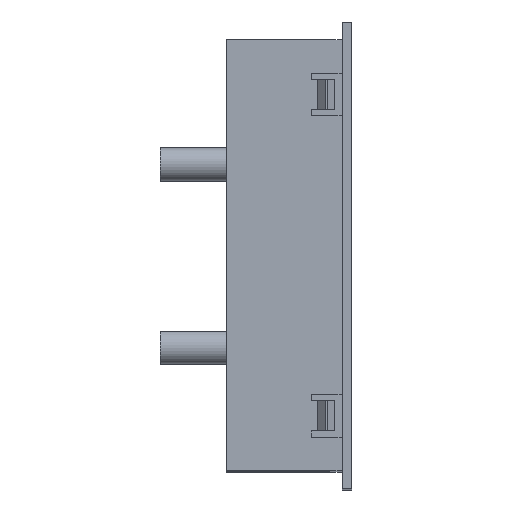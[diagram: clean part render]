
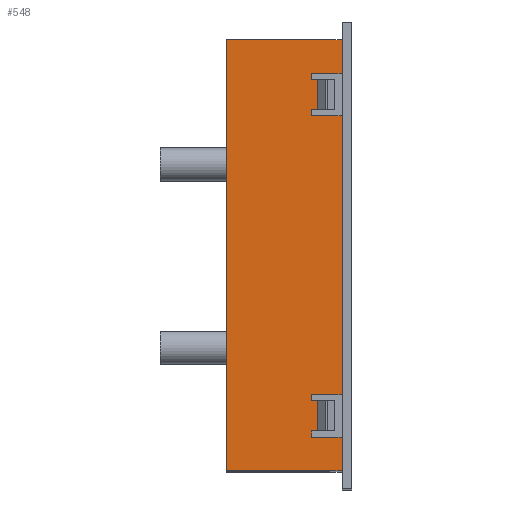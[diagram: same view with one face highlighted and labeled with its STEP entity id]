
A CAD part, top view. The second image highlights one B-rep face of the part: STEP entity #548.
In plain terms, the highlighted planar face has unit normal (0, 0, 1).
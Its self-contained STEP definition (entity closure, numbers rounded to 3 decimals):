
#548=ADVANCED_FACE('',(#1974),#1976,.T.);
#1974=FACE_BOUND('',#1975,.T.);
#1975=EDGE_LOOP('',(#3309,#3310,#3311,#3312,#3313,#3314,#3315,#3316,#3317,#3318,
#3319,#3320,#3321,#3322,#3323,#3324,#3325,#3326,#3327,#3328));
#1976=PLANE('',#1977);
#1977=AXIS2_PLACEMENT_3D('',#1978,#1979,#1980);
#1978=CARTESIAN_POINT('',(19.1,-35.6,67.35));
#1979=DIRECTION('',(0.,0.,1.));
#1980=DIRECTION('',(0.,1.,0.));
#3309=ORIENTED_EDGE('',*,*,#4173,.T.);
#3310=ORIENTED_EDGE('',*,*,#4009,.T.);
#3311=ORIENTED_EDGE('',*,*,#3990,.T.);
#3312=ORIENTED_EDGE('',*,*,#3943,.F.);
#3313=ORIENTED_EDGE('',*,*,#4033,.F.);
#3314=ORIENTED_EDGE('',*,*,#4003,.T.);
#3315=ORIENTED_EDGE('',*,*,#4174,.T.);
#3316=ORIENTED_EDGE('',*,*,#4175,.T.);
#3317=ORIENTED_EDGE('',*,*,#4176,.F.);
#3318=ORIENTED_EDGE('',*,*,#4177,.F.);
#3319=ORIENTED_EDGE('',*,*,#4178,.T.);
#3320=ORIENTED_EDGE('',*,*,#4179,.T.);
#3321=ORIENTED_EDGE('',*,*,#4180,.T.);
#3322=ORIENTED_EDGE('',*,*,#4015,.T.);
#3323=ORIENTED_EDGE('',*,*,#4181,.T.);
#3324=ORIENTED_EDGE('',*,*,#4182,.T.);
#3325=ORIENTED_EDGE('',*,*,#4183,.F.);
#3326=ORIENTED_EDGE('',*,*,#4184,.F.);
#3327=ORIENTED_EDGE('',*,*,#4185,.T.);
#3328=ORIENTED_EDGE('',*,*,#4186,.T.);
#3943=EDGE_CURVE('',#4549,#4551,#4552,.F.);
#3990=EDGE_CURVE('',#4643,#4551,#4644,.T.);
#4003=EDGE_CURVE('',#4668,#4666,#4669,.T.);
#4009=EDGE_CURVE('',#4675,#4643,#4676,.T.);
#4015=EDGE_CURVE('',#4687,#4685,#4688,.T.);
#4033=EDGE_CURVE('',#4668,#4549,#4714,.T.);
#4173=EDGE_CURVE('',#4949,#4675,#4950,.F.);
#4174=EDGE_CURVE('',#4666,#4951,#4952,.F.);
#4175=EDGE_CURVE('',#4951,#4953,#4954,.F.);
#4176=EDGE_CURVE('',#4955,#4953,#4956,.T.);
#4177=EDGE_CURVE('',#4957,#4955,#4958,.T.);
#4178=EDGE_CURVE('',#4957,#4959,#4960,.T.);
#4179=EDGE_CURVE('',#4959,#4961,#4962,.F.);
#4180=EDGE_CURVE('',#4961,#4687,#4963,.F.);
#4181=EDGE_CURVE('',#4685,#4964,#4965,.F.);
#4182=EDGE_CURVE('',#4964,#4966,#4967,.F.);
#4183=EDGE_CURVE('',#4968,#4966,#4969,.T.);
#4184=EDGE_CURVE('',#4970,#4968,#4971,.T.);
#4185=EDGE_CURVE('',#4970,#4972,#4973,.T.);
#4186=EDGE_CURVE('',#4972,#4949,#4974,.F.);
#4549=VERTEX_POINT('',#5621);
#4551=VERTEX_POINT('',#5625);
#4552=LINE('',#5626,#5627);
#4643=VERTEX_POINT('',#5815);
#4644=LINE('',#5816,#5817);
#4666=VERTEX_POINT('',#5863);
#4668=VERTEX_POINT('',#5867);
#4669=LINE('',#5868,#5869);
#4675=VERTEX_POINT('',#5886);
#4676=LINE('',#5887,#5888);
#4685=VERTEX_POINT('',#5906);
#4687=VERTEX_POINT('',#5910);
#4688=LINE('',#5911,#5912);
#4714=LINE('',#5977,#5978);
#4949=VERTEX_POINT('',#6493);
#4950=LINE('',#6494,#6495);
#4951=VERTEX_POINT('',#6497);
#4952=LINE('',#6498,#6499);
#4953=VERTEX_POINT('',#6501);
#4954=LINE('',#6502,#6503);
#4955=VERTEX_POINT('',#6505);
#4956=LINE('',#6506,#6507);
#4957=VERTEX_POINT('',#6509);
#4958=LINE('',#6510,#6511);
#4959=VERTEX_POINT('',#6513);
#4960=LINE('',#6514,#6515);
#4961=VERTEX_POINT('',#6517);
#4962=LINE('',#6518,#6519);
#4963=LINE('',#6521,#6522);
#4964=VERTEX_POINT('',#6524);
#4965=LINE('',#6525,#6526);
#4966=VERTEX_POINT('',#6528);
#4967=LINE('',#6529,#6530);
#4968=VERTEX_POINT('',#6532);
#4969=LINE('',#6533,#6534);
#4970=VERTEX_POINT('',#6536);
#4971=LINE('',#6537,#6538);
#4972=VERTEX_POINT('',#6540);
#4973=LINE('',#6541,#6542);
#4974=LINE('',#6544,#6545);
#5621=CARTESIAN_POINT('',(0.,-35.6,67.35));
#5625=CARTESIAN_POINT('',(0.,35.6,67.35));
#5626=CARTESIAN_POINT('',(0.,35.6,67.35));
#5627=VECTOR('',#5628,1.);
#5628=DIRECTION('',(0.,-1.,0.));
#5815=CARTESIAN_POINT('',(19.1,35.6,67.35));
#5816=CARTESIAN_POINT('',(19.1,35.6,67.35));
#5817=VECTOR('',#5818,1.);
#5818=DIRECTION('',(-1.,0.,0.));
#5863=CARTESIAN_POINT('',(19.1,-30.,67.35));
#5867=CARTESIAN_POINT('',(19.1,-35.6,67.35));
#5868=CARTESIAN_POINT('',(19.1,-35.6,67.35));
#5869=VECTOR('',#5870,1.);
#5870=DIRECTION('',(0.,1.,0.));
#5886=CARTESIAN_POINT('',(19.1,30.,67.35));
#5887=CARTESIAN_POINT('',(19.1,30.,67.35));
#5888=VECTOR('',#5889,1.);
#5889=DIRECTION('',(0.,1.,0.));
#5906=CARTESIAN_POINT('',(19.1,23.,67.35));
#5910=CARTESIAN_POINT('',(19.1,-23.,67.35));
#5911=CARTESIAN_POINT('',(19.1,-23.,67.35));
#5912=VECTOR('',#5913,1.);
#5913=DIRECTION('',(0.,1.,0.));
#5977=CARTESIAN_POINT('',(19.1,-35.6,67.35));
#5978=VECTOR('',#5979,1.);
#5979=DIRECTION('',(-1.,0.,0.));
#6493=CARTESIAN_POINT('',(14.1,30.,67.35));
#6494=CARTESIAN_POINT('',(19.1,30.,67.35));
#6495=VECTOR('',#6496,1.);
#6496=DIRECTION('',(-1.,0.,0.));
#6497=CARTESIAN_POINT('',(14.1,-30.,67.35));
#6498=CARTESIAN_POINT('',(14.1,-30.,67.35));
#6499=VECTOR('',#6500,1.);
#6500=DIRECTION('',(1.,0.,0.));
#6501=CARTESIAN_POINT('',(14.1,-29.,67.35));
#6502=CARTESIAN_POINT('',(14.1,-29.,67.35));
#6503=VECTOR('',#6504,1.);
#6504=DIRECTION('',(0.,-1.,0.));
#6505=CARTESIAN_POINT('',(15.1,-29.,67.35));
#6506=CARTESIAN_POINT('',(15.1,-29.,67.35));
#6507=VECTOR('',#6508,1.);
#6508=DIRECTION('',(-1.,0.,0.));
#6509=CARTESIAN_POINT('',(15.1,-24.,67.35));
#6510=CARTESIAN_POINT('',(15.1,-24.,67.35));
#6511=VECTOR('',#6512,1.);
#6512=DIRECTION('',(0.,-1.,0.));
#6513=CARTESIAN_POINT('',(14.1,-24.,67.35));
#6514=CARTESIAN_POINT('',(15.1,-24.,67.35));
#6515=VECTOR('',#6516,1.);
#6516=DIRECTION('',(-1.,0.,0.));
#6517=CARTESIAN_POINT('',(14.1,-23.,67.35));
#6518=CARTESIAN_POINT('',(14.1,-23.,67.35));
#6519=VECTOR('',#6520,1.);
#6520=DIRECTION('',(0.,-1.,0.));
#6521=CARTESIAN_POINT('',(19.1,-23.,67.35));
#6522=VECTOR('',#6523,1.);
#6523=DIRECTION('',(-1.,0.,0.));
#6524=CARTESIAN_POINT('',(14.1,23.,67.35));
#6525=CARTESIAN_POINT('',(14.1,23.,67.35));
#6526=VECTOR('',#6527,1.);
#6527=DIRECTION('',(1.,0.,0.));
#6528=CARTESIAN_POINT('',(14.1,24.,67.35));
#6529=CARTESIAN_POINT('',(14.1,24.,67.35));
#6530=VECTOR('',#6531,1.);
#6531=DIRECTION('',(0.,-1.,0.));
#6532=CARTESIAN_POINT('',(15.1,24.,67.35));
#6533=CARTESIAN_POINT('',(15.1,24.,67.35));
#6534=VECTOR('',#6535,1.);
#6535=DIRECTION('',(-1.,0.,0.));
#6536=CARTESIAN_POINT('',(15.1,29.,67.35));
#6537=CARTESIAN_POINT('',(15.1,29.,67.35));
#6538=VECTOR('',#6539,1.);
#6539=DIRECTION('',(0.,-1.,0.));
#6540=CARTESIAN_POINT('',(14.1,29.,67.35));
#6541=CARTESIAN_POINT('',(15.1,29.,67.35));
#6542=VECTOR('',#6543,1.);
#6543=DIRECTION('',(-1.,0.,0.));
#6544=CARTESIAN_POINT('',(14.1,30.,67.35));
#6545=VECTOR('',#6546,1.);
#6546=DIRECTION('',(0.,-1.,0.));
